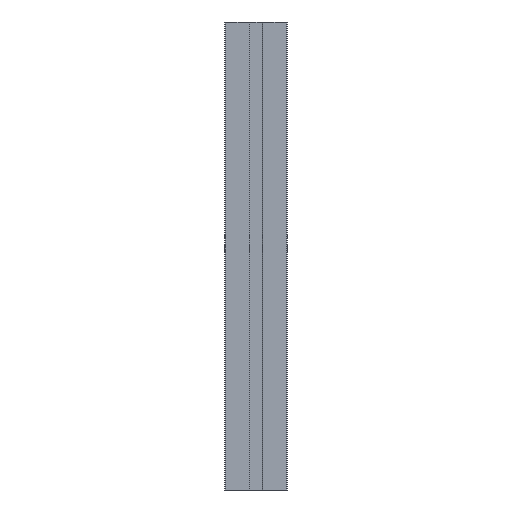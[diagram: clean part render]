
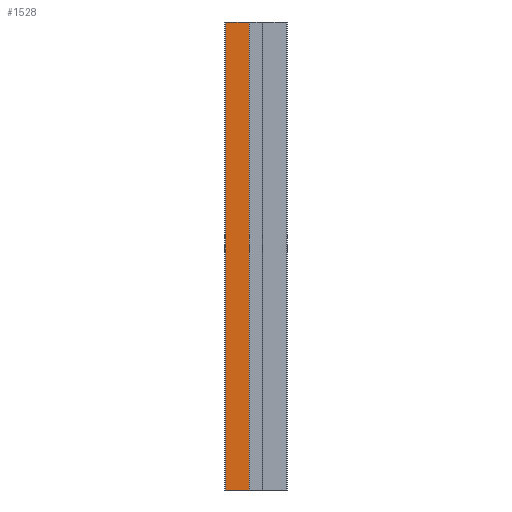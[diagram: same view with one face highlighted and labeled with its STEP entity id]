
A CAD part, left-side view. The second image highlights one B-rep face of the part: STEP entity #1528.
In plain terms, the highlighted planar face has unit normal (-1, 0, 0).
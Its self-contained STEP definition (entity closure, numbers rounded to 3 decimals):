
#25 = ORIENTED_EDGE ( 'NONE', *, *, #1864, .T. ) ;
#29 = AXIS2_PLACEMENT_3D ( 'NONE', #1912, #1652, #1359 ) ;
#36 = VECTOR ( 'NONE', #1710, 1000. ) ;
#69 = ORIENTED_EDGE ( 'NONE', *, *, #1716, .T. ) ;
#129 = ORIENTED_EDGE ( 'NONE', *, *, #455, .F. ) ;
#195 = CARTESIAN_POINT ( 'NONE',  ( -20., 19.5, 150. ) ) ;
#292 = LINE ( 'NONE', #2296, #811 ) ;
#455 = EDGE_CURVE ( 'NONE', #1490, #1988, #292, .T. ) ;
#503 = LINE ( 'NONE', #195, #734 ) ;
#607 = CARTESIAN_POINT ( 'NONE',  ( -20., 19.5, 150. ) ) ;
#734 = VECTOR ( 'NONE', #2783, 1000. ) ;
#811 = VECTOR ( 'NONE', #1972, 1000. ) ;
#957 = DIRECTION ( 'NONE',  ( 0., -1., 0. ) ) ;
#977 = CARTESIAN_POINT ( 'NONE',  ( -20., 4.2, 150. ) ) ;
#1103 = CARTESIAN_POINT ( 'NONE',  ( -20., 4.2, -150. ) ) ;
#1114 = VECTOR ( 'NONE', #957, 1000. ) ;
#1140 = FACE_OUTER_BOUND ( 'NONE', #1448, .T. ) ;
#1259 = CARTESIAN_POINT ( 'NONE',  ( -20., 19.5, -150. ) ) ;
#1359 = DIRECTION ( 'NONE',  ( 0., 0., -1. ) ) ;
#1448 = EDGE_LOOP ( 'NONE', ( #69, #2083, #129, #25 ) ) ;
#1490 = VERTEX_POINT ( 'NONE', #607 ) ;
#1528 = ADVANCED_FACE ( 'NONE', ( #1140 ), #2229, .F. ) ;
#1560 = LINE ( 'NONE', #1259, #1114 ) ;
#1652 = DIRECTION ( 'NONE',  ( 1., 0., 0. ) ) ;
#1660 = VERTEX_POINT ( 'NONE', #2265 ) ;
#1673 = VERTEX_POINT ( 'NONE', #1103 ) ;
#1710 = DIRECTION ( 'NONE',  ( 0., 0., -1. ) ) ;
#1716 = EDGE_CURVE ( 'NONE', #1660, #1673, #1560, .T. ) ;
#1864 = EDGE_CURVE ( 'NONE', #1490, #1660, #503, .T. ) ;
#1912 = CARTESIAN_POINT ( 'NONE',  ( -20., 19.5, 150. ) ) ;
#1972 = DIRECTION ( 'NONE',  ( 0., -1., 0. ) ) ;
#1981 = CARTESIAN_POINT ( 'NONE',  ( -20., 4.2, 150. ) ) ;
#1988 = VERTEX_POINT ( 'NONE', #977 ) ;
#2028 = EDGE_CURVE ( 'NONE', #1988, #1673, #2305, .T. ) ;
#2083 = ORIENTED_EDGE ( 'NONE', *, *, #2028, .F. ) ;
#2229 = PLANE ( 'NONE',  #29 ) ;
#2265 = CARTESIAN_POINT ( 'NONE',  ( -20., 19.5, -150. ) ) ;
#2296 = CARTESIAN_POINT ( 'NONE',  ( -20., 19.5, 150. ) ) ;
#2305 = LINE ( 'NONE', #1981, #36 ) ;
#2783 = DIRECTION ( 'NONE',  ( 0., 0., -1. ) ) ;
